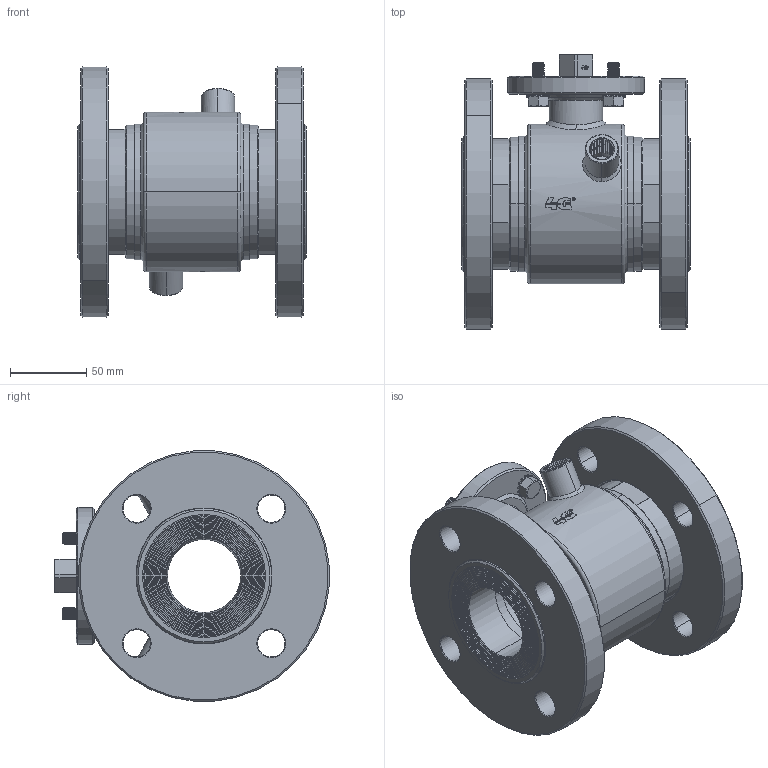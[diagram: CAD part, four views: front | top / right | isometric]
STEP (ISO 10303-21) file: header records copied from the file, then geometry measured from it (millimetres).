
FILE_DESCRIPTION((''),'2;1');
FILE_NAME('103050C6381F_SW0001','2026-03-31T11:16:59',('tecnico2'),('CDM Tecnoconsulting'),'CREO PARAMETRIC BY PTC INC, 2024063','CREO PARAMETRIC BY PTC INC, 2024063','');
FILE_SCHEMA(('CONFIG_CONTROL_DESIGN','SHAPE_APPEARANCE_LAYERS_GROUPS'));
Products named in the file (1): 103050C6381F_SW0001
Bounding box: 150 x 180.19 x 164.37 mm (x, y, z)
Volume: 1263293.2 mm3; surface area: 267758.6 mm2
Topology: 1 solids, 2 shells, 1987 faces, 5363 edges, 3476 vertices
Faces by surface type: plane 793, cylinder 498, cone 243, extrusion 223, bspline 124, torus 102, sphere 4
Entity records: 139115 total; most frequent: CARTESIAN_POINT 70634, ORIENTED_EDGE 10706, DIRECTION 8069, PRESENTATION_STYLE_ASSIGNMENT 6245, STYLED_ITEM 5522, CURVE_STYLE 5521, EDGE_CURVE 5353, VERTEX_POINT 3476
